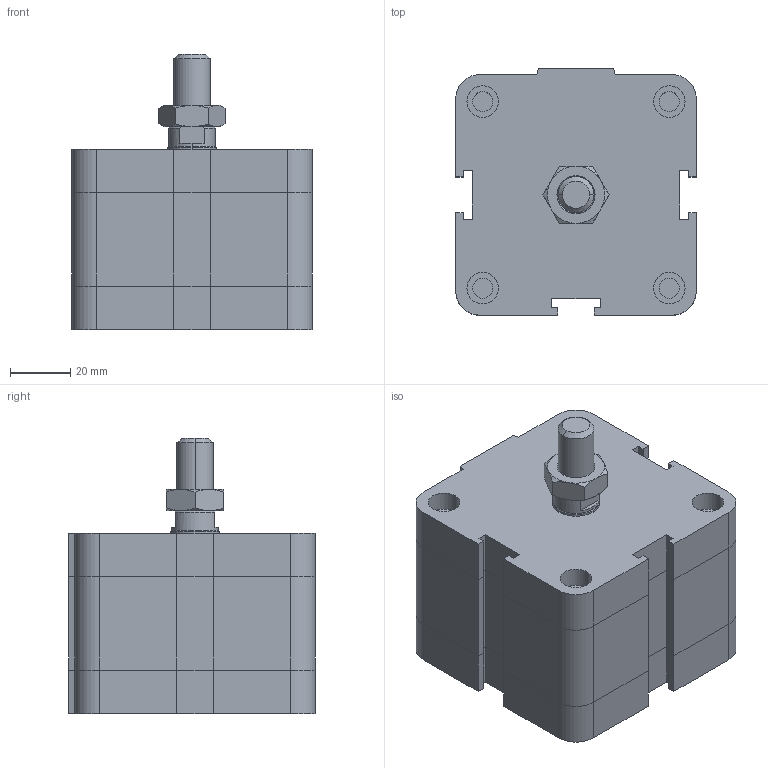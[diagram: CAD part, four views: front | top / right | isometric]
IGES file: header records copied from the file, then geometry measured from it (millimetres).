
Global section: file name: No Iges File Name specified; native system: Autodesk Inventor 2009; preprocessor: AutoDesk Inventor Iges Exporter R2009; author: rivolro1; date: 20081219.162401; units: millimetre
Bounding box: 80 x 82 x 91.5 mm (x, y, z)
Volume: 365849.4 mm3; surface area: 44386.4 mm2
Topology: 3 solids, 3 shells, 216 faces, 472 edges, 282 vertices
Faces by surface type: plane 121, bspline 37, cylinder 20, cone 20, revolution 18
